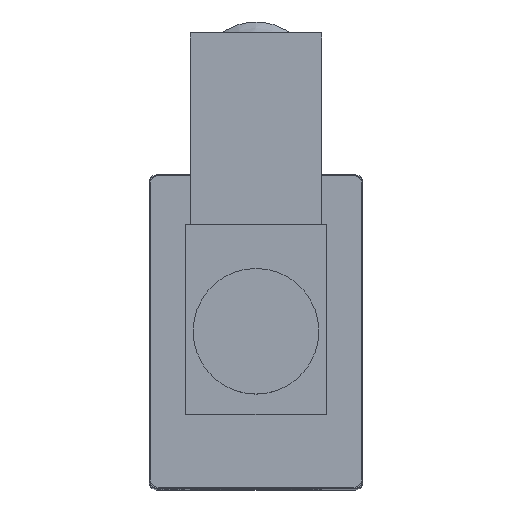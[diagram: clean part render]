
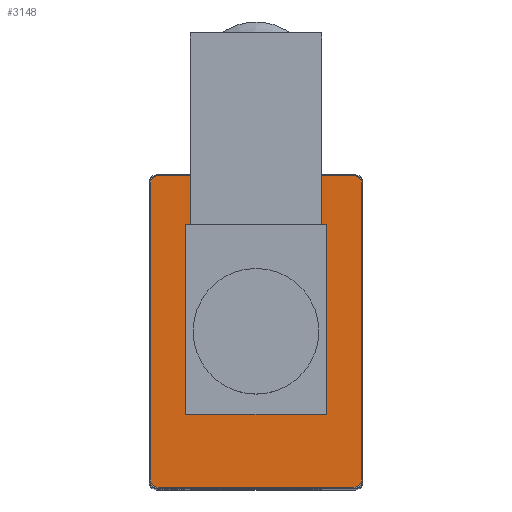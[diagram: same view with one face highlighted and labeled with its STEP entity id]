
A CAD part, top view. The second image highlights one B-rep face of the part: STEP entity #3148.
In plain terms, the highlighted planar face has unit normal (0, 0, 1).
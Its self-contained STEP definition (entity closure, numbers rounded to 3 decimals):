
#40 = LINE ( 'NONE', #2622, #2228 ) ;
#90 = VECTOR ( 'NONE', #2939, 1000. ) ;
#91 = ORIENTED_EDGE ( 'NONE', *, *, #2421, .T. ) ;
#95 = AXIS2_PLACEMENT_3D ( 'NONE', #2079, #3593, #3203 ) ;
#118 = LINE ( 'NONE', #4210, #4685 ) ;
#126 = VECTOR ( 'NONE', #3307, 1000. ) ;
#194 = VERTEX_POINT ( 'NONE', #4761 ) ;
#252 = AXIS2_PLACEMENT_3D ( 'NONE', #576, #1394, #2538 ) ;
#281 = EDGE_CURVE ( 'NONE', #4405, #966, #1815, .T. ) ;
#359 = VECTOR ( 'NONE', #382, 1000. ) ;
#382 = DIRECTION ( 'NONE',  ( 0., 1., 0. ) ) ;
#392 = ORIENTED_EDGE ( 'NONE', *, *, #2001, .T. ) ;
#477 = AXIS2_PLACEMENT_3D ( 'NONE', #1763, #3959, #967 ) ;
#576 = CARTESIAN_POINT ( 'NONE',  ( 15.6, 23.6, 28.2 ) ) ;
#656 = EDGE_CURVE ( 'NONE', #2317, #4405, #1524, .T. ) ;
#661 = LINE ( 'NONE', #1049, #2045 ) ;
#733 = ORIENTED_EDGE ( 'NONE', *, *, #656, .T. ) ;
#747 = ORIENTED_EDGE ( 'NONE', *, *, #3113, .T. ) ;
#758 = VERTEX_POINT ( 'NONE', #2255 ) ;
#901 = CARTESIAN_POINT ( 'NONE',  ( -15.6, -24.8, 28.2 ) ) ;
#949 = LINE ( 'NONE', #901, #2352 ) ;
#966 = VERTEX_POINT ( 'NONE', #3572 ) ;
#967 = DIRECTION ( 'NONE',  ( 1., 0., 0. ) ) ;
#997 = EDGE_CURVE ( 'NONE', #194, #3164, #3055, .T. ) ;
#1048 = VERTEX_POINT ( 'NONE', #3251 ) ;
#1049 = CARTESIAN_POINT ( 'NONE',  ( 11.15, 17., 28.2 ) ) ;
#1110 = CARTESIAN_POINT ( 'NONE',  ( 11.15, -13.2, 28.2 ) ) ;
#1147 = DIRECTION ( 'NONE',  ( 1., 0., 0. ) ) ;
#1324 = EDGE_CURVE ( 'NONE', #2785, #1630, #118, .T. ) ;
#1349 = CARTESIAN_POINT ( 'NONE',  ( -11.15, -13.2, 28.2 ) ) ;
#1357 = EDGE_CURVE ( 'NONE', #1048, #2317, #3208, .T. ) ;
#1394 = DIRECTION ( 'NONE',  ( 0., 0., 1. ) ) ;
#1426 = AXIS2_PLACEMENT_3D ( 'NONE', #1943, #1850, #1147 ) ;
#1457 = ORIENTED_EDGE ( 'NONE', *, *, #4393, .F. ) ;
#1460 = ORIENTED_EDGE ( 'NONE', *, *, #1357, .T. ) ;
#1524 = LINE ( 'NONE', #3388, #2430 ) ;
#1630 = VERTEX_POINT ( 'NONE', #3058 ) ;
#1763 = CARTESIAN_POINT ( 'NONE',  ( -15.6, -23.6, 28.2 ) ) ;
#1815 = CIRCLE ( 'NONE', #1426, 1.2 ) ;
#1817 = CARTESIAN_POINT ( 'NONE',  ( 11.15, -13.2, 28.2 ) ) ;
#1850 = DIRECTION ( 'NONE',  ( 0., 0., 1. ) ) ;
#1919 = ORIENTED_EDGE ( 'NONE', *, *, #4226, .T. ) ;
#1943 = CARTESIAN_POINT ( 'NONE',  ( -15.6, 23.6, 28.2 ) ) ;
#1946 = VERTEX_POINT ( 'NONE', #2268 ) ;
#2001 = EDGE_CURVE ( 'NONE', #966, #3484, #40, .T. ) ;
#2029 = DIRECTION ( 'NONE',  ( 0., 1., 0. ) ) ;
#2045 = VECTOR ( 'NONE', #2552, 1000. ) ;
#2079 = CARTESIAN_POINT ( 'NONE',  ( 15.6, -23.6, 28.2 ) ) ;
#2112 = EDGE_LOOP ( 'NONE', ( #91, #2667, #1457, #3700 ) ) ;
#2178 = CIRCLE ( 'NONE', #477, 1.2 ) ;
#2228 = VECTOR ( 'NONE', #4116, 1000. ) ;
#2255 = CARTESIAN_POINT ( 'NONE',  ( 11.15, -13.2, 28.2 ) ) ;
#2268 = CARTESIAN_POINT ( 'NONE',  ( 11.15, 17., 28.2 ) ) ;
#2283 = DIRECTION ( 'NONE',  ( -1., 0., 0. ) ) ;
#2317 = VERTEX_POINT ( 'NONE', #2721 ) ;
#2342 = ORIENTED_EDGE ( 'NONE', *, *, #281, .T. ) ;
#2352 = VECTOR ( 'NONE', #4654, 1000. ) ;
#2421 = EDGE_CURVE ( 'NONE', #758, #2785, #2866, .T. ) ;
#2430 = VECTOR ( 'NONE', #2283, 1000. ) ;
#2519 = CARTESIAN_POINT ( 'NONE',  ( -15.6, 23.6, 28.2 ) ) ;
#2538 = DIRECTION ( 'NONE',  ( 1., 0., 0. ) ) ;
#2552 = DIRECTION ( 'NONE',  ( -1., 0., 0. ) ) ;
#2604 = EDGE_CURVE ( 'NONE', #758, #1946, #2643, .T. ) ;
#2622 = CARTESIAN_POINT ( 'NONE',  ( -16.8, 23.6, 28.2 ) ) ;
#2643 = LINE ( 'NONE', #1110, #359 ) ;
#2667 = ORIENTED_EDGE ( 'NONE', *, *, #1324, .T. ) ;
#2689 = CARTESIAN_POINT ( 'NONE',  ( -16.8, -23.6, 28.2 ) ) ;
#2721 = CARTESIAN_POINT ( 'NONE',  ( 15.6, 24.8, 28.2 ) ) ;
#2763 = EDGE_LOOP ( 'NONE', ( #2342, #392, #747, #1919, #4428, #2844, #1460, #733 ) ) ;
#2785 = VERTEX_POINT ( 'NONE', #1349 ) ;
#2844 = ORIENTED_EDGE ( 'NONE', *, *, #3261, .T. ) ;
#2866 = LINE ( 'NONE', #1817, #126 ) ;
#2939 = DIRECTION ( 'NONE',  ( 0., 1., 0. ) ) ;
#2965 = AXIS2_PLACEMENT_3D ( 'NONE', #2519, #3230, #4352 ) ;
#3055 = CIRCLE ( 'NONE', #95, 1.2 ) ;
#3058 = CARTESIAN_POINT ( 'NONE',  ( -11.15, 17., 28.2 ) ) ;
#3113 = EDGE_CURVE ( 'NONE', #3484, #3647, #2178, .T. ) ;
#3148 = ADVANCED_FACE ( 'NONE', ( #3205, #4011 ), #3985, .T. ) ;
#3164 = VERTEX_POINT ( 'NONE', #3618 ) ;
#3203 = DIRECTION ( 'NONE',  ( 1., 0., 0. ) ) ;
#3205 = FACE_OUTER_BOUND ( 'NONE', #2763, .T. ) ;
#3208 = CIRCLE ( 'NONE', #252, 1.2 ) ;
#3230 = DIRECTION ( 'NONE',  ( 0., 0., 1. ) ) ;
#3251 = CARTESIAN_POINT ( 'NONE',  ( 16.8, 23.6, 28.2 ) ) ;
#3261 = EDGE_CURVE ( 'NONE', #3164, #1048, #4815, .T. ) ;
#3307 = DIRECTION ( 'NONE',  ( -1., 0., 0. ) ) ;
#3388 = CARTESIAN_POINT ( 'NONE',  ( 15.6, 24.8, 28.2 ) ) ;
#3484 = VERTEX_POINT ( 'NONE', #2689 ) ;
#3572 = CARTESIAN_POINT ( 'NONE',  ( -16.8, 23.6, 28.2 ) ) ;
#3593 = DIRECTION ( 'NONE',  ( 0., 0., 1. ) ) ;
#3618 = CARTESIAN_POINT ( 'NONE',  ( 16.8, -23.6, 28.2 ) ) ;
#3647 = VERTEX_POINT ( 'NONE', #4322 ) ;
#3674 = CARTESIAN_POINT ( 'NONE',  ( -15.6, 24.8, 28.2 ) ) ;
#3700 = ORIENTED_EDGE ( 'NONE', *, *, #2604, .F. ) ;
#3959 = DIRECTION ( 'NONE',  ( 0., 0., 1. ) ) ;
#3985 = PLANE ( 'NONE',  #2965 ) ;
#4011 = FACE_BOUND ( 'NONE', #2112, .T. ) ;
#4116 = DIRECTION ( 'NONE',  ( 0., -1., 0. ) ) ;
#4210 = CARTESIAN_POINT ( 'NONE',  ( -11.15, -13.2, 28.2 ) ) ;
#4226 = EDGE_CURVE ( 'NONE', #3647, #194, #949, .T. ) ;
#4322 = CARTESIAN_POINT ( 'NONE',  ( -15.6, -24.8, 28.2 ) ) ;
#4352 = DIRECTION ( 'NONE',  ( 1., 0., 0. ) ) ;
#4393 = EDGE_CURVE ( 'NONE', #1946, #1630, #661, .T. ) ;
#4405 = VERTEX_POINT ( 'NONE', #3674 ) ;
#4428 = ORIENTED_EDGE ( 'NONE', *, *, #997, .T. ) ;
#4654 = DIRECTION ( 'NONE',  ( 1., 0., 0. ) ) ;
#4685 = VECTOR ( 'NONE', #2029, 1000. ) ;
#4761 = CARTESIAN_POINT ( 'NONE',  ( 15.6, -24.8, 28.2 ) ) ;
#4794 = CARTESIAN_POINT ( 'NONE',  ( 16.8, -23.6, 28.2 ) ) ;
#4815 = LINE ( 'NONE', #4794, #90 ) ;
